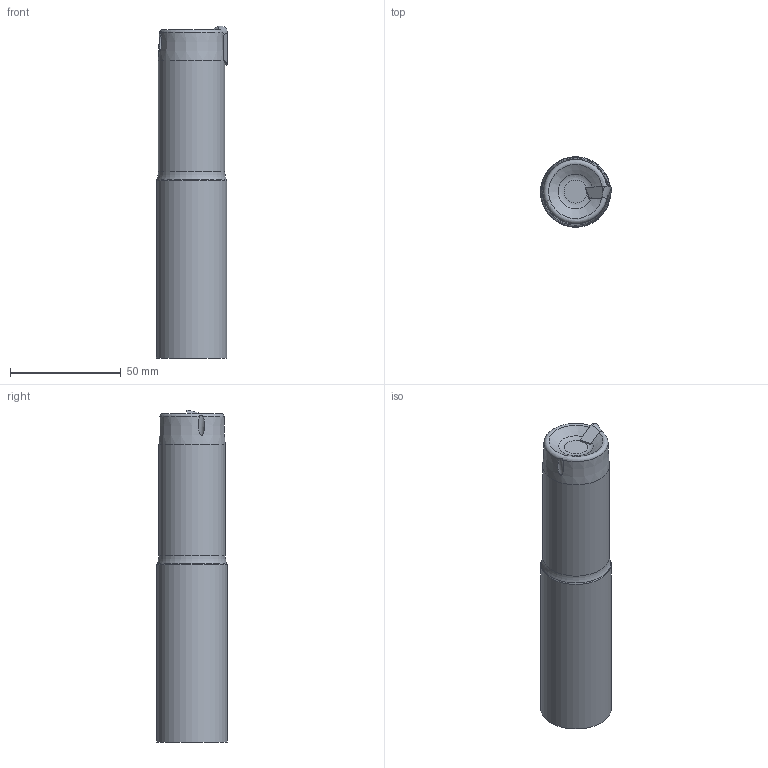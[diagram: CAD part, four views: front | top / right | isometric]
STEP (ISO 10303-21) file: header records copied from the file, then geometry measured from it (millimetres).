
FILE_DESCRIPTION(/* description */ (''),/* implementation_level */ '2;1');
FILE_NAME(/* name */ 'PAXSA5125HR-A-HAAS.stp',/* time_stamp */ '2020-11-19T09:46:20+09:00',/* author */ (''),/* organization */ (''),/* preprocessor_version */ 'ST-DEVELOPER v16',/* originating_system */ 'SIEMENS PLM Software NX 10.0',/* authorisation */ '');
FILE_SCHEMA (('CONFIG_CONTROL_DESIGN'));
Length unit declared in the file: millimetre
Products named in the file (1): model13
Bounding box: 32.1 x 31.75 x 150 mm (x, y, z)
Volume: 105048.5 mm3; surface area: 19962.7 mm2
Topology: 2 solids, 2 shells, 26 faces, 69 edges, 44 vertices
Faces by surface type: plane 10, cylinder 9, cone 4, torus 3
Full cylindrical faces by diameter (mm): 3 x2, 8.5 x1, 30.081 x1, 31.75 x1
Entity records: 948 total; most frequent: CARTESIAN_POINT 308, DIRECTION 118, ORIENTED_EDGE 96, AXIS2_PLACEMENT_3D 49, EDGE_CURVE 48, EDGE_LOOP 40, VERTEX_POINT 37, FACE_BOUND 28
